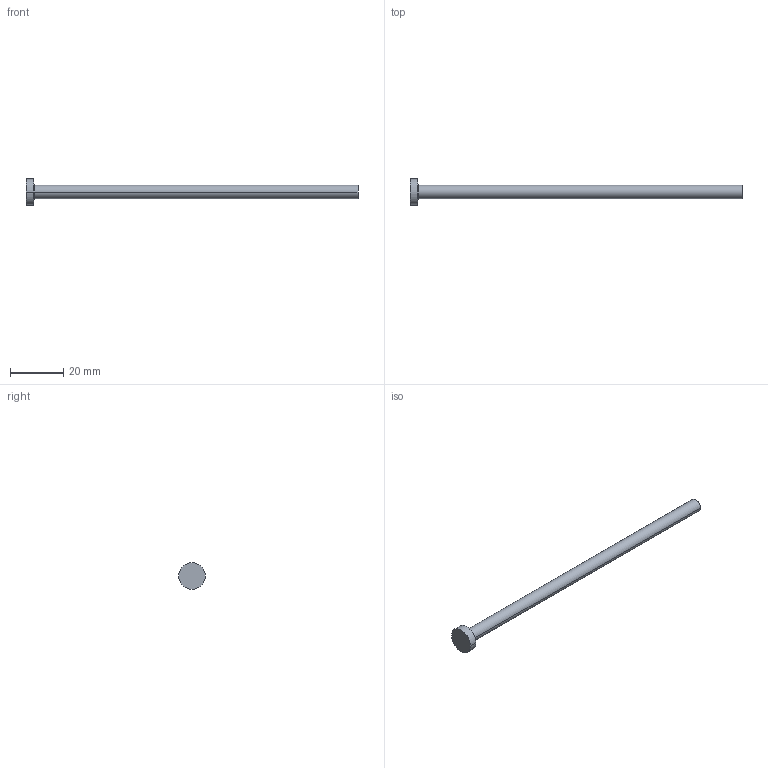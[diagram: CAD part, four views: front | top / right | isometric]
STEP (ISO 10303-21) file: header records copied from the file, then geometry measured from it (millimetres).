
FILE_DESCRIPTION (( 'STEP AP214' ), '1' );
FILE_NAME ('A-5x125.STEP', '2020-05-29T15:34:03', ( 'August' ), ( '' ), 'SwSTEP 2.0', 'SolidWorks 2018', '' );
FILE_SCHEMA (( 'AUTOMOTIVE_DESIGN' ));
Length unit declared in the file: millimetre
Products named in the file (1): A-5x125
Bounding box: 125 x 10 x 10 mm (x, y, z)
Volume: 2631.4 mm3; surface area: 2165.7 mm2
Topology: 1 solids, 1 shells, 9 faces, 16 edges, 10 vertices
Faces by surface type: cylinder 4, plane 3, torus 2
Entity records: 260 total; most frequent: DIRECTION 48, CARTESIAN_POINT 36, ORIENTED_EDGE 32, AXIS2_PLACEMENT_3D 22, EDGE_CURVE 16, CIRCLE 12, VERTEX_POINT 10, EDGE_LOOP 10
